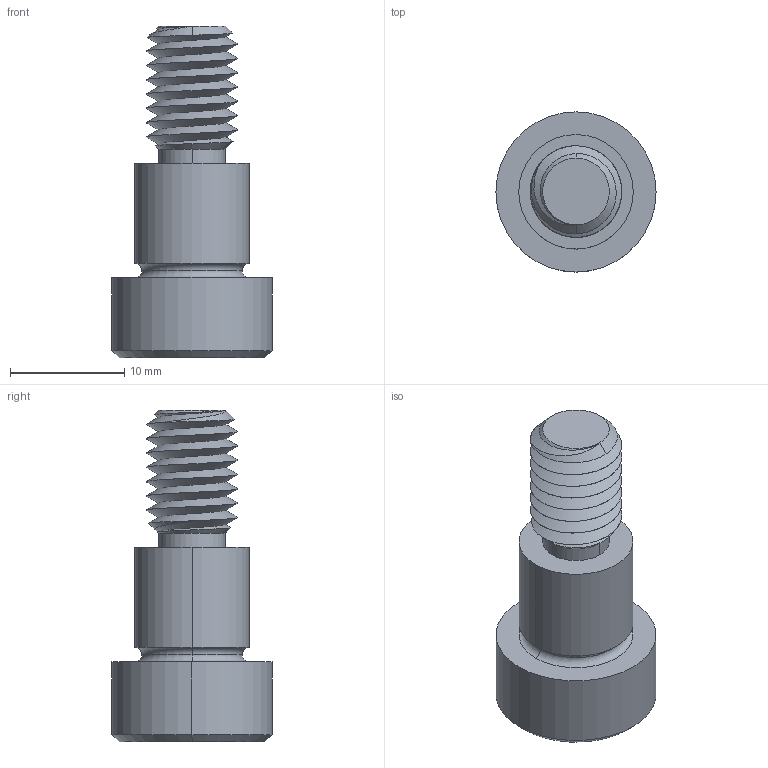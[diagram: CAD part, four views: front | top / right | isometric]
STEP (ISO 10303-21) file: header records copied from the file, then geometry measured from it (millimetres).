
FILE_DESCRIPTION (( 'STEP AP203' ), '1' );
FILE_NAME ('P0130.100-010-B8.step', '2021-11-09T21:49:58', ( '' ), ( '' ), 'SwSTEP 2.0', 'SolidWorks 2019', '' );
FILE_SCHEMA (( 'CONFIG_CONTROL_DESIGN' ));
Length unit declared in the file: millimetre
Products named in the file (1): P0130.100-010-B8
Bounding box: 14 x 14 x 29 mm (x, y, z)
Volume: 2152.4 mm3; surface area: 1492.1 mm2
Topology: 1 solids, 1 shells, 58 faces, 136 edges, 81 vertices
Faces by surface type: cylinder 21, plane 16, cone 15, torus 4, bspline 2
Entity records: 4214 total; most frequent: CARTESIAN_POINT 2911, ORIENTED_EDGE 268, DIRECTION 241, EDGE_CURVE 134, AXIS2_PLACEMENT_3D 97, VERTEX_POINT 81, EDGE_LOOP 61, ADVANCED_FACE 58
